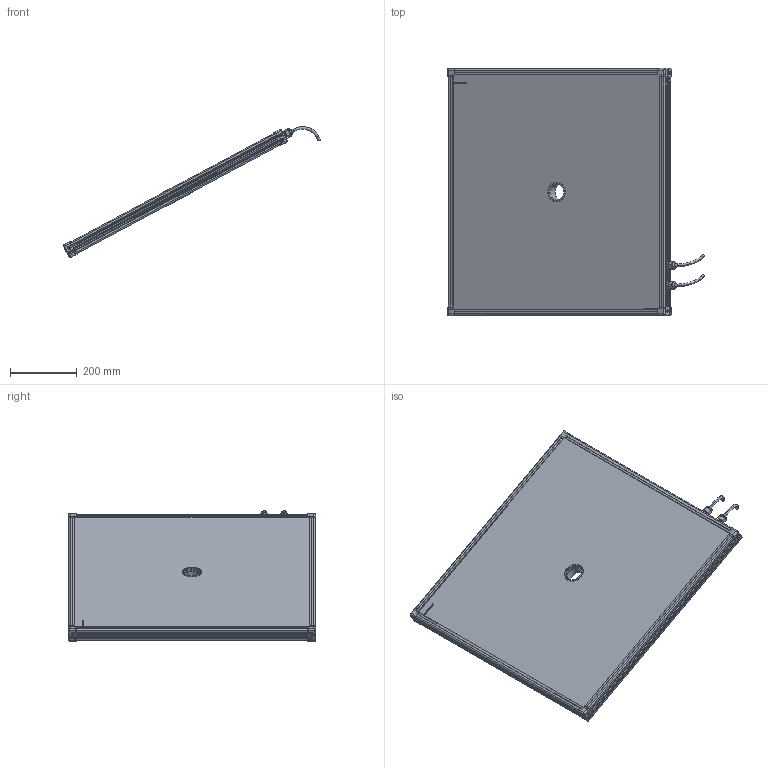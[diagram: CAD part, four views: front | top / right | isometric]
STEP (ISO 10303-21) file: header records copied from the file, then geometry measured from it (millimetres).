
FILE_DESCRIPTION (( 'STEP AP214' ), '1' );
FILE_NAME ('EFFI-FD-700-700-ZZZ-2M12P.STEP', '2021-06-21T10:05:32', ( '' ), ( '' ), 'SwSTEP 2.0', 'SolidWorks 2021', '' );
FILE_SCHEMA (( 'AUTOMOTIVE_DESIGN' ));
Length unit declared in the file: millimetre
Products named in the file (13): EFFI-FD-700-700-ZZZ-2M12P; M12 power; petite joue; 000590; Pièce13^EFFI-FD-XXX-YYY-ZZZ (2 connecteurs) M12 POWER Ø50; profile Y_PERCE; 000629; 001039; petite joue + vis; Assemblage Ø50; profile X_PERCE; 001040
Assembly tree (20 placements, depth 3):
  EFFI-FD-700-700-ZZZ-2M12P
    profile X_PERCE  x2
    profile Y_PERCE
    profile Y_PERCE
    Pièce13^EFFI-FD-XXX-YYY-ZZZ (2 connecteurs) M12 POWER Ø50
    petite joue + vis  x4
      petite joue
      000629
    M12 power  x2
    Assemblage Ø50
      001039
      001040
      000590  x3
Bounding box: 767.86 x 739 x 391.04 mm (x, y, z)
Volume: 18908984.2 mm3; surface area: 1555477 mm2
Topology: 22 solids, 28 shells, 4002 faces, 10650 edges, 6994 vertices
Faces by surface type: plane 2479, cylinder 737, bspline 591, cone 154, torus 33, sphere 8
Entity records: 56584 total; most frequent: CARTESIAN_POINT 22742, ORIENTED_EDGE 7114, DIRECTION 5810, EDGE_CURVE 3559, LINE 2478, VECTOR 2478, VERTEX_POINT 2341, AXIS2_PLACEMENT_3D 1666
